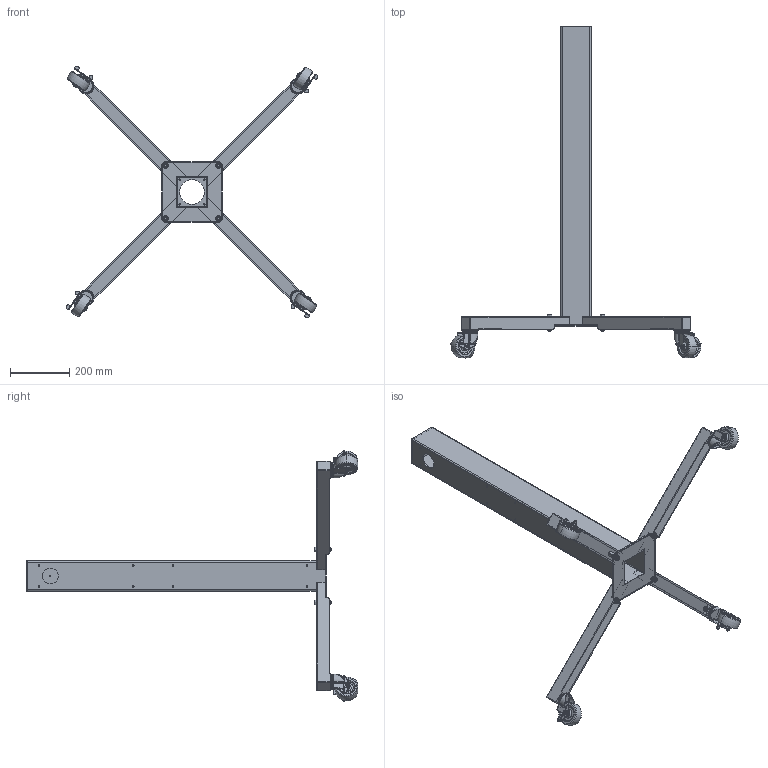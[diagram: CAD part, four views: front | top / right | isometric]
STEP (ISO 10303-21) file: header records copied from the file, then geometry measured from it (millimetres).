
FILE_DESCRIPTION (( 'STEP AP214' ), '1' );
FILE_NAME ('4X4 Pedestal and Floor Stand with Casters, PED4X4 and MOBL4X4-CSTR.STEP', '2017-07-19T13:53:42', ( '' ), ( '' ), 'SwSTEP 2.0', 'SolidWorks 2017', '' );
FILE_SCHEMA (( 'AUTOMOTIVE_DESIGN' ));
Length unit declared in the file: inch
Products named in the file (8): Leg, MOBL4X4-( ); 4X4 Pedestal for Yoke Mounts and Enclosures, PED4X4-xxx-40-H4; 4X4 Pedestal and Floor Stand with Casters, PED4X4 and MOBL4X4-CSTR; Floor Stand Leg with Caster, MOBL4X4-CSTR; Locknut, 30369_93776A461; Cap Screw, 30368_92198A632; Flat Washer, 30372_96659A108; Caster Wheel, 30366 or 30519_2834T43
Assembly tree (10 placements, depth 3):
  4X4 Pedestal and Floor Stand with Casters, PED4X4 and MOBL4X4-CSTR
    4X4 Pedestal for Yoke Mounts and Enclosures, PED4X4-xxx-40-H4
    Floor Stand Leg with Caster, MOBL4X4-CSTR  x4
      Leg, MOBL4X4-( )
      Caster Wheel, 30366 or 30519_2834T43
      Flat Washer, 30372_96659A108
      Cap Screw, 30368_92198A632
      Locknut, 30369_93776A461
Bounding box: 847.55 x 1116.34 x 847.55 mm (x, y, z)
Volume: 3138241.6 mm3; surface area: 1528639.8 mm2
Topology: 29 solids, 29 shells, 1673 faces, 4452 edges, 2868 vertices
Faces by surface type: plane 697, cylinder 680, cone 124, torus 112, bspline 52, sphere 8
Entity records: 25860 total; most frequent: CARTESIAN_POINT 13590, ORIENTED_EDGE 2574, DIRECTION 2291, EDGE_CURVE 1287, AXIS2_PLACEMENT_3D 848, VERTEX_POINT 837, LINE 595, VECTOR 595
